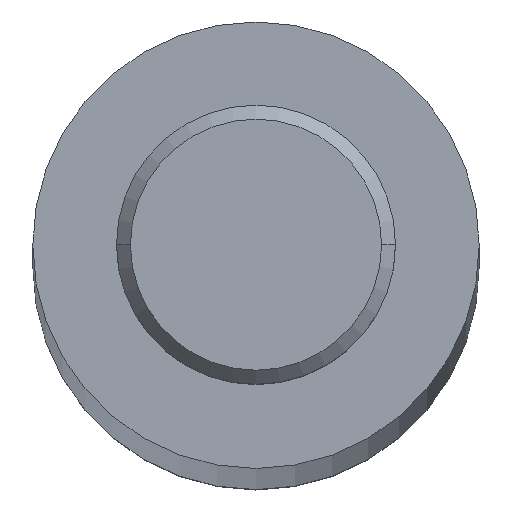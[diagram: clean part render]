
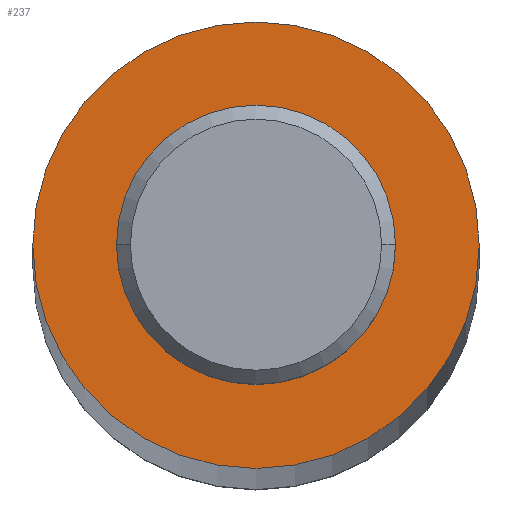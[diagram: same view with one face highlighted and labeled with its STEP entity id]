
A CAD part, top view. The second image highlights one B-rep face of the part: STEP entity #237.
In plain terms, the highlighted planar face has unit normal (0, 0, 1).
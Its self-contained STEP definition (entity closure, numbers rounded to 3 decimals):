
#4 = VERTEX_POINT ( 'NONE', #232 ) ;
#11 = FACE_BOUND ( 'NONE', #347, .T. ) ;
#39 = DIRECTION ( 'NONE',  ( 0., 0., 1. ) ) ;
#69 = DIRECTION ( 'NONE',  ( 1., 0., 0. ) ) ;
#90 = CARTESIAN_POINT ( 'NONE',  ( 0., 0., 443. ) ) ;
#141 = EDGE_LOOP ( 'NONE', ( #456, #601 ) ) ;
#144 = CARTESIAN_POINT ( 'NONE',  ( -8., 0., 443. ) ) ;
#147 = AXIS2_PLACEMENT_3D ( 'NONE', #352, #304, #247 ) ;
#155 = PLANE ( 'NONE',  #624 ) ;
#178 = CIRCLE ( 'NONE', #296, 8. ) ;
#210 = FACE_OUTER_BOUND ( 'NONE', #141, .T. ) ;
#221 = EDGE_CURVE ( 'NONE', #343, #443, #416, .T. ) ;
#228 = CIRCLE ( 'NONE', #523, 3. ) ;
#232 = CARTESIAN_POINT ( 'NONE',  ( -3., 0., 443. ) ) ;
#233 = DIRECTION ( 'NONE',  ( 1., 0., 0. ) ) ;
#237 = ADVANCED_FACE ( 'NONE', ( #11, #210 ), #155, .T. ) ;
#239 = EDGE_CURVE ( 'NONE', #559, #4, #323, .T. ) ;
#247 = DIRECTION ( 'NONE',  ( 1., 0., 0. ) ) ;
#262 = DIRECTION ( 'NONE',  ( 1., 0., 0. ) ) ;
#288 = ORIENTED_EDGE ( 'NONE', *, *, #596, .F. ) ;
#296 = AXIS2_PLACEMENT_3D ( 'NONE', #90, #39, #233 ) ;
#304 = DIRECTION ( 'NONE',  ( 0., 0., 1. ) ) ;
#323 = CIRCLE ( 'NONE', #458, 3. ) ;
#341 = DIRECTION ( 'NONE',  ( 1., 0., 0. ) ) ;
#343 = VERTEX_POINT ( 'NONE', #404 ) ;
#347 = EDGE_LOOP ( 'NONE', ( #288, #426 ) ) ;
#350 = CARTESIAN_POINT ( 'NONE',  ( 0., 0., 443. ) ) ;
#352 = CARTESIAN_POINT ( 'NONE',  ( 0., 0., 443. ) ) ;
#400 = CARTESIAN_POINT ( 'NONE',  ( 0., 0., 443. ) ) ;
#404 = CARTESIAN_POINT ( 'NONE',  ( 8., 0., 443. ) ) ;
#416 = CIRCLE ( 'NONE', #147, 8. ) ;
#426 = ORIENTED_EDGE ( 'NONE', *, *, #239, .F. ) ;
#430 = EDGE_CURVE ( 'NONE', #443, #343, #178, .T. ) ;
#443 = VERTEX_POINT ( 'NONE', #144 ) ;
#444 = CARTESIAN_POINT ( 'NONE',  ( 3., 0., 443. ) ) ;
#456 = ORIENTED_EDGE ( 'NONE', *, *, #430, .T. ) ;
#458 = AXIS2_PLACEMENT_3D ( 'NONE', #585, #556, #262 ) ;
#508 = DIRECTION ( 'NONE',  ( 0., 0., 1. ) ) ;
#523 = AXIS2_PLACEMENT_3D ( 'NONE', #350, #588, #341 ) ;
#556 = DIRECTION ( 'NONE',  ( 0., 0., 1. ) ) ;
#559 = VERTEX_POINT ( 'NONE', #444 ) ;
#585 = CARTESIAN_POINT ( 'NONE',  ( 0., 0., 443. ) ) ;
#588 = DIRECTION ( 'NONE',  ( 0., 0., 1. ) ) ;
#596 = EDGE_CURVE ( 'NONE', #4, #559, #228, .T. ) ;
#601 = ORIENTED_EDGE ( 'NONE', *, *, #221, .T. ) ;
#624 = AXIS2_PLACEMENT_3D ( 'NONE', #400, #508, #69 ) ;
